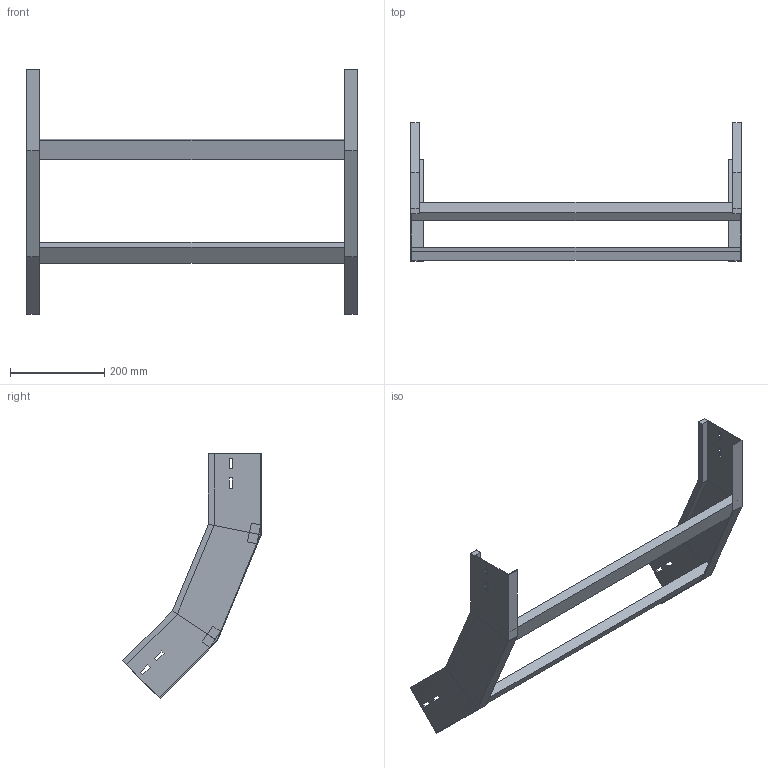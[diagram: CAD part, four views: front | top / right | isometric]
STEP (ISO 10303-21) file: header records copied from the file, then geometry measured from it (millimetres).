
FILE_DESCRIPTION (( 'STEP AP214' ), '1' );
FILE_NAME ('B2X31B5J700XX.step', '2025-03-20T10:08:36', ( '' ), ( '' ), 'SwSTEP 2.0', 'SolidWorks 2023', '' );
FILE_SCHEMA (( 'AUTOMOTIVE_DESIGN' ));
Length unit declared in the file: millimetre
Products named in the file (3): TRAVERSINO_700; B2X31B5J700XX; LONGH.SALITA_45°_H112.5_R500
Assembly tree (4 placements, depth 2):
  B2X31B5J700XX
    LONGH.SALITA_45°_H112.5_R500  x2
    TRAVERSINO_700  x2
Bounding box: 700 x 294.27 x 518.39 mm (x, y, z)
Volume: 1620835.9 mm3; surface area: 511304 mm2
Topology: 4 solids, 4 shells, 96 faces, 232 edges, 144 vertices
Faces by surface type: plane 96
Entity records: 1472 total; most frequent: CARTESIAN_POINT 243, ORIENTED_EDGE 232, DIRECTION 226, VECTOR 116, EDGE_CURVE 116, LINE 116, VERTEX_POINT 72, EDGE_LOOP 56
